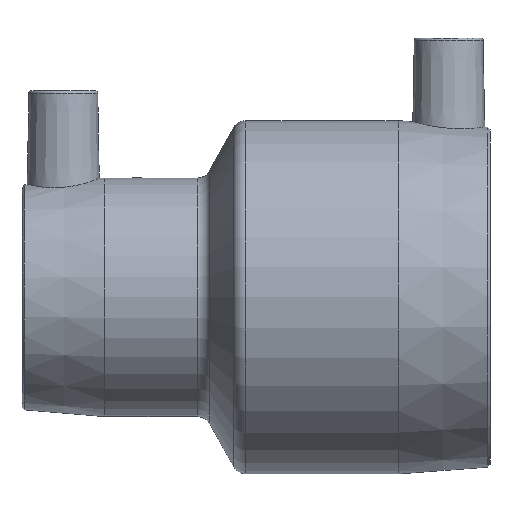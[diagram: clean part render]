
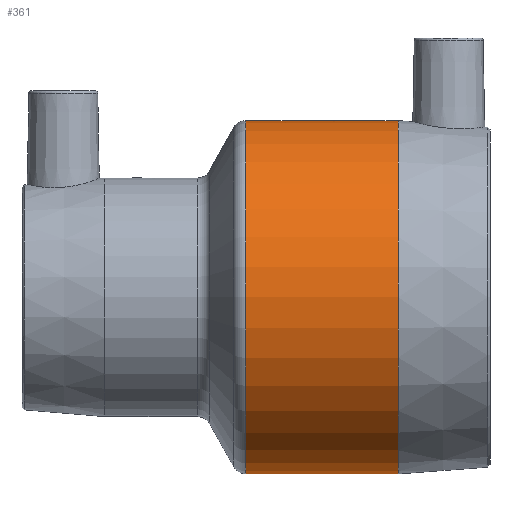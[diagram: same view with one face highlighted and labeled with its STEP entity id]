
A CAD part, front view. The second image highlights one B-rep face of the part: STEP entity #361.
In plain terms, the highlighted cylindrical face has radius 38.5 mm (diameter 77 mm), a full revolution.
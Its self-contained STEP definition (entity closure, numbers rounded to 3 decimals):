
#35=CYLINDRICAL_SURFACE('',#410,38.5);
#47=B_SPLINE_CURVE_WITH_KNOTS('',3,(#628,#629,#630,#631,#632,#633,#634,
#635,#636,#637,#638),.UNSPECIFIED.,.T.,.F.,(1,1,1,1,1,1,1,1,1,1,1,1,1,1,
1),(-0.002,-0.002,-0.001,0.,
0.001,0.002,0.002,0.003,
0.004,0.005,0.005,0.006,
0.007,0.008,0.009),
 .UNSPECIFIED.);
#53=ORIENTED_EDGE('',*,*,#121,.T.);
#54=ORIENTED_EDGE('',*,*,#122,.T.);
#55=ORIENTED_EDGE('',*,*,#118,.T.);
#118=EDGE_CURVE('',#152,#152,#186,.T.);
#121=EDGE_CURVE('',#155,#155,#47,.T.);
#122=EDGE_CURVE('',#156,#156,#188,.T.);
#152=VERTEX_POINT('',#604);
#155=VERTEX_POINT('',#639);
#156=VERTEX_POINT('',#641);
#186=CIRCLE('',#408,38.5);
#188=CIRCLE('',#411,38.5);
#219=EDGE_LOOP('',(#53));
#220=EDGE_LOOP('',(#54));
#221=EDGE_LOOP('',(#55));
#287=FACE_BOUND('',#219,.T.);
#288=FACE_BOUND('',#220,.T.);
#289=FACE_BOUND('',#221,.T.);
#361=ADVANCED_FACE('',(#287,#288,#289),#35,.T.);
#408=AXIS2_PLACEMENT_3D('',#603,#475,#476);
#410=AXIS2_PLACEMENT_3D('',#627,#479,#480);
#411=AXIS2_PLACEMENT_3D('',#640,#481,#482);
#475=DIRECTION('',(-1.,0.,0.));
#476=DIRECTION('',(0.,0.,1.));
#479=DIRECTION('',(-1.,0.,0.));
#480=DIRECTION('',(0.,0.,1.));
#481=DIRECTION('',(1.,0.,0.));
#482=DIRECTION('',(0.,0.,-1.));
#603=CARTESIAN_POINT('',(38.5,0.,0.));
#604=CARTESIAN_POINT('',(38.5,0.,38.5));
#627=CARTESIAN_POINT('',(-60.,0.,0.));
#628=CARTESIAN_POINT('',(34.283,0.785,38.493));
#629=CARTESIAN_POINT('',(34.608,0.,38.503));
#630=CARTESIAN_POINT('',(34.283,-0.784,38.494));
#631=CARTESIAN_POINT('',(33.501,-1.108,38.484));
#632=CARTESIAN_POINT('',(32.717,-0.784,38.493));
#633=CARTESIAN_POINT('',(32.392,0.,38.503));
#634=CARTESIAN_POINT('',(32.716,0.783,38.494));
#635=CARTESIAN_POINT('',(33.499,1.108,38.484));
#636=CARTESIAN_POINT('',(34.283,0.785,38.493));
#637=CARTESIAN_POINT('',(34.608,0.,38.503));
#638=CARTESIAN_POINT('',(34.283,-0.784,38.494));
#639=CARTESIAN_POINT('',(34.5,0.,38.5));
#640=CARTESIAN_POINT('',(5.258,0.,0.));
#641=CARTESIAN_POINT('',(5.258,0.,-38.5));
